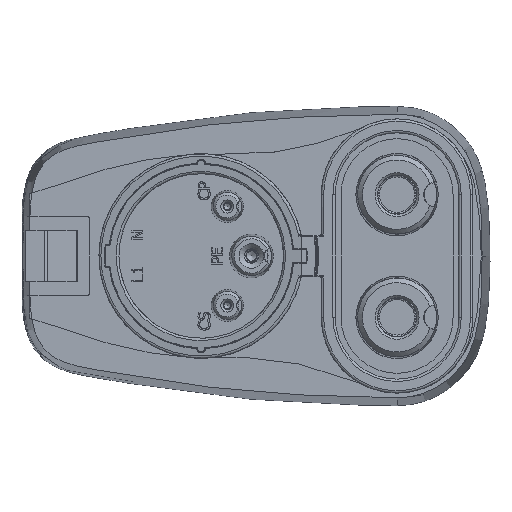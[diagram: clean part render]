
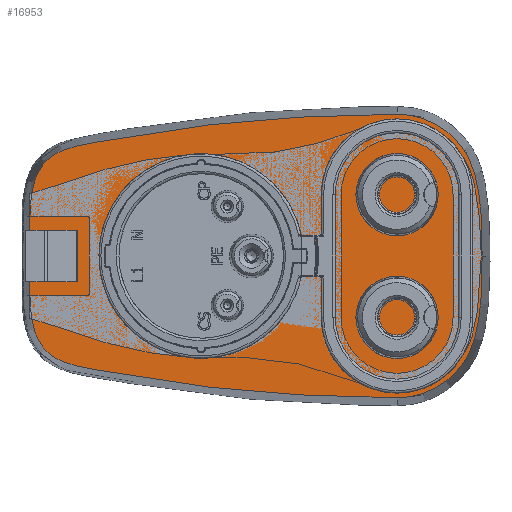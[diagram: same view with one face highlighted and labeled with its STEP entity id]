
A CAD part, left-side view. The second image highlights one B-rep face of the part: STEP entity #16953.
In plain terms, the highlighted planar face has unit normal (-1, 0, 0).
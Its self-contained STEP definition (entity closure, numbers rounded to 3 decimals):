
#1167=(
BOUNDED_CURVE()
B_SPLINE_CURVE(5,(#48408,#48409,#48410,#48411,#48412,#48413,#48414,#48415,
#48416,#48417,#48418,#48419,#48420,#48421,#48422),.UNSPECIFIED.,.F.,.F.)
B_SPLINE_CURVE_WITH_KNOTS((6,1,1,1,1,1,1,1,1,1,6),(0.,0.1,0.2,0.3,0.4,0.5,
0.6,0.7,0.8,0.9,1.),.UNSPECIFIED.)
CURVE()
GEOMETRIC_REPRESENTATION_ITEM()
RATIONAL_B_SPLINE_CURVE((1.,1.,1.,1.,1.,1.,1.,1.,1.,1.,1.,1.,1.,1.,1.))
REPRESENTATION_ITEM('')
);
#1168=(
BOUNDED_CURVE()
B_SPLINE_CURVE(5,(#52148,#52149,#52150,#52151,#52152,#52153,#52154,#52155,
#52156,#52157,#52158,#52159,#52160,#52161,#52162),.UNSPECIFIED.,.F.,.F.)
B_SPLINE_CURVE_WITH_KNOTS((6,1,1,1,1,1,1,1,1,1,6),(0.,0.1,0.2,0.3,0.4,0.5,
0.6,0.7,0.8,0.9,1.),.UNSPECIFIED.)
CURVE()
GEOMETRIC_REPRESENTATION_ITEM()
RATIONAL_B_SPLINE_CURVE((1.,1.,1.,1.,1.,1.,1.,1.,1.,1.,1.,1.,1.,1.,1.))
REPRESENTATION_ITEM('')
);
#1169=(
BOUNDED_CURVE()
B_SPLINE_CURVE(5,(#52210,#52211,#52212,#52213,#52214,#52215,#52216,#52217,
#52218,#52219),.UNSPECIFIED.,.F.,.F.)
B_SPLINE_CURVE_WITH_KNOTS((6,1,1,1,1,6),(0.,0.2,0.4,0.6,0.8,1.),
 .UNSPECIFIED.)
CURVE()
GEOMETRIC_REPRESENTATION_ITEM()
RATIONAL_B_SPLINE_CURVE((1.,1.,1.,1.,1.,1.,1.,1.,1.,1.))
REPRESENTATION_ITEM('')
);
#1170=(
BOUNDED_CURVE()
B_SPLINE_CURVE(5,(#52268,#52269,#52270,#52271,#52272,#52273,#52274,#52275,
#52276,#52277),.UNSPECIFIED.,.F.,.F.)
B_SPLINE_CURVE_WITH_KNOTS((6,1,1,1,1,6),(0.,0.2,0.4,0.6,0.8,1.),
 .UNSPECIFIED.)
CURVE()
GEOMETRIC_REPRESENTATION_ITEM()
RATIONAL_B_SPLINE_CURVE((1.,1.,1.,1.,1.,1.,1.,1.,1.,1.))
REPRESENTATION_ITEM('')
);
#1758=PLANE('',#18803);
#2588=LINE('',#48489,#3463);
#3463=VECTOR('',#22978,10.);
#4689=FACE_OUTER_BOUND('',#5790,.T.);
#5790=EDGE_LOOP('',(#15813,#15814,#15815,#15816,#15817,#15818,#15819));
#6622=CIRCLE('',#18791,17.3);
#6623=CIRCLE('',#18795,17.3);
#8093=VERTEX_POINT('',#48405);
#8094=VERTEX_POINT('',#48407);
#8101=VERTEX_POINT('',#48484);
#8215=VERTEX_POINT('',#52146);
#8217=VERTEX_POINT('',#52207);
#8218=VERTEX_POINT('',#52209);
#8219=VERTEX_POINT('',#52242);
#10547=EDGE_CURVE('',#8093,#8094,#1167,.T.);
#10556=EDGE_CURVE('',#8093,#8101,#2588,.T.);
#10738=EDGE_CURVE('',#8101,#8215,#1168,.T.);
#10742=EDGE_CURVE('',#8218,#8217,#1169,.T.);
#10745=EDGE_CURVE('',#8217,#8094,#6622,.T.);
#10748=EDGE_CURVE('',#8215,#8219,#6623,.T.);
#10749=EDGE_CURVE('',#8218,#8219,#1170,.T.);
#15813=ORIENTED_EDGE('',*,*,#10742,.T.);
#15814=ORIENTED_EDGE('',*,*,#10745,.T.);
#15815=ORIENTED_EDGE('',*,*,#10547,.F.);
#15816=ORIENTED_EDGE('',*,*,#10556,.T.);
#15817=ORIENTED_EDGE('',*,*,#10738,.T.);
#15818=ORIENTED_EDGE('',*,*,#10748,.T.);
#15819=ORIENTED_EDGE('',*,*,#10749,.F.);
#16953=ADVANCED_FACE('',(#4689),#1758,.T.);
#18791=AXIS2_PLACEMENT_3D('',#52231,#23181,#23182);
#18795=AXIS2_PLACEMENT_3D('',#52247,#23189,#23190);
#18803=AXIS2_PLACEMENT_3D('',#52289,#23207,#23208);
#22978=DIRECTION('',(0.,0.,-1.));
#23181=DIRECTION('center_axis',(-1.,0.,0.));
#23182=DIRECTION('ref_axis',(0.,-1.,0.));
#23189=DIRECTION('center_axis',(-1.,0.,0.));
#23190=DIRECTION('ref_axis',(0.,0.,
-1.));
#23207=DIRECTION('center_axis',(-1.,0.,0.));
#23208=DIRECTION('ref_axis',(0.,-1.,0.));
#48405=CARTESIAN_POINT('',(-29.5,47.636,8.5));
#48407=CARTESIAN_POINT('',(-29.5,-31.366,30.5));
#48408=CARTESIAN_POINT('Ctrl Pts',(-29.5,47.636,8.5));
#48409=CARTESIAN_POINT('Ctrl Pts',(-29.5,47.636,10.925));
#48410=CARTESIAN_POINT('Ctrl Pts',(-29.5,47.293,15.187));
#48411=CARTESIAN_POINT('Ctrl Pts',(-29.5,45.748,19.812));
#48412=CARTESIAN_POINT('Ctrl Pts',(-29.5,41.9,22.968));
#48413=CARTESIAN_POINT('Ctrl Pts',(-29.5,35.235,24.256));
#48414=CARTESIAN_POINT('Ctrl Pts',(-29.5,27.834,25.337));
#48415=CARTESIAN_POINT('Ctrl Pts',(-29.5,19.577,26.888));
#48416=CARTESIAN_POINT('Ctrl Pts',(-29.5,9.868,28.212));
#48417=CARTESIAN_POINT('Ctrl Pts',(-29.5,-0.819,29.294));
#48418=CARTESIAN_POINT('Ctrl Pts',(-29.5,-11.844,30.022));
#48419=CARTESIAN_POINT('Ctrl Pts',(-29.5,-20.268,30.354));
#48420=CARTESIAN_POINT('Ctrl Pts',(-29.5,-26.059,30.473));
#48421=CARTESIAN_POINT('Ctrl Pts',(-29.5,-29.643,30.5));
#48422=CARTESIAN_POINT('Ctrl Pts',(-29.5,-31.366,30.5));
#48484=CARTESIAN_POINT('',(-29.5,47.636,-8.5));
#48489=CARTESIAN_POINT('',(-29.5,47.636,8.5));
#52146=CARTESIAN_POINT('',(-29.5,-31.366,-30.5));
#52148=CARTESIAN_POINT('Ctrl Pts',(-29.5,47.636,-8.5));
#52149=CARTESIAN_POINT('Ctrl Pts',(-29.5,47.636,-10.925));
#52150=CARTESIAN_POINT('Ctrl Pts',(-29.5,47.293,-15.187));
#52151=CARTESIAN_POINT('Ctrl Pts',(-29.5,45.748,-19.812));
#52152=CARTESIAN_POINT('Ctrl Pts',(-29.5,41.9,-22.968));
#52153=CARTESIAN_POINT('Ctrl Pts',(-29.5,35.235,-24.256));
#52154=CARTESIAN_POINT('Ctrl Pts',(-29.5,27.834,-25.337));
#52155=CARTESIAN_POINT('Ctrl Pts',(-29.5,19.577,-26.888));
#52156=CARTESIAN_POINT('Ctrl Pts',(-29.5,9.868,-28.212));
#52157=CARTESIAN_POINT('Ctrl Pts',(-29.5,-0.819,-29.294));
#52158=CARTESIAN_POINT('Ctrl Pts',(-29.5,-11.844,-30.022));
#52159=CARTESIAN_POINT('Ctrl Pts',(-29.5,-20.268,-30.354));
#52160=CARTESIAN_POINT('Ctrl Pts',(-29.5,-26.059,-30.473));
#52161=CARTESIAN_POINT('Ctrl Pts',(-29.5,-29.643,-30.5));
#52162=CARTESIAN_POINT('Ctrl Pts',(-29.5,-31.366,-30.5));
#52207=CARTESIAN_POINT('',(-29.5,-48.048,17.782));
#52209=CARTESIAN_POINT('',(-29.5,-49.666,0.));
#52210=CARTESIAN_POINT('Ctrl Pts',(-29.5,-49.666,0.));
#52211=CARTESIAN_POINT('Ctrl Pts',(-29.5,-49.671,0.72));
#52212=CARTESIAN_POINT('Ctrl Pts',(-29.5,-49.674,2.158));
#52213=CARTESIAN_POINT('Ctrl Pts',(-29.5,-49.653,4.313));
#52214=CARTESIAN_POINT('Ctrl Pts',(-29.5,-49.574,7.18));
#52215=CARTESIAN_POINT('Ctrl Pts',(-29.5,-49.344,10.748));
#52216=CARTESIAN_POINT('Ctrl Pts',(-29.5,-48.992,13.582));
#52217=CARTESIAN_POINT('Ctrl Pts',(-29.5,-48.584,15.69));
#52218=CARTESIAN_POINT('Ctrl Pts',(-29.5,-48.239,17.086));
#52219=CARTESIAN_POINT('Ctrl Pts',(-29.5,-48.048,17.782));
#52231=CARTESIAN_POINT('Origin',(-29.5,-31.366,13.2));
#52242=CARTESIAN_POINT('',(-29.5,-48.048,-17.782));
#52247=CARTESIAN_POINT('Origin',(-29.5,-31.366,-13.2));
#52268=CARTESIAN_POINT('Ctrl Pts',(-29.5,-49.666,0.));
#52269=CARTESIAN_POINT('Ctrl Pts',(-29.5,-49.671,-0.72));
#52270=CARTESIAN_POINT('Ctrl Pts',(-29.5,-49.674,-2.158));
#52271=CARTESIAN_POINT('Ctrl Pts',(-29.5,-49.653,-4.313));
#52272=CARTESIAN_POINT('Ctrl Pts',(-29.5,-49.574,-7.18));
#52273=CARTESIAN_POINT('Ctrl Pts',(-29.5,-49.344,-10.748));
#52274=CARTESIAN_POINT('Ctrl Pts',(-29.5,-48.992,-13.582));
#52275=CARTESIAN_POINT('Ctrl Pts',(-29.5,-48.584,-15.69));
#52276=CARTESIAN_POINT('Ctrl Pts',(-29.5,-48.239,-17.086));
#52277=CARTESIAN_POINT('Ctrl Pts',(-29.5,-48.048,-17.782));
#52289=CARTESIAN_POINT('Origin',(-29.5,-1.019,0.));
